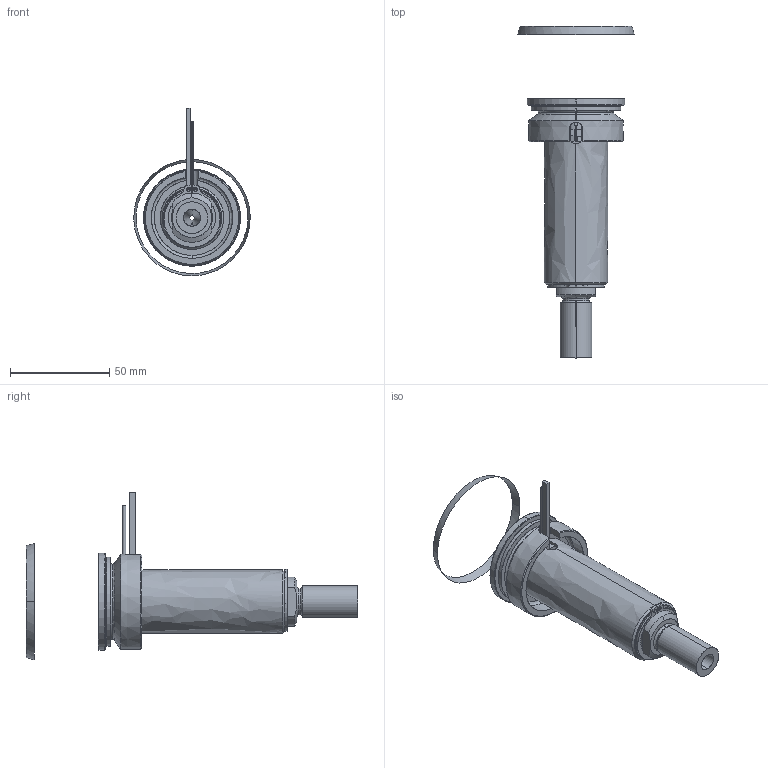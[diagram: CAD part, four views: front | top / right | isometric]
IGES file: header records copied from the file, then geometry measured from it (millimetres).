
Start section: SolidWorks IGES file using analytic representation for surfaces
Global section: file name: C:\Documents and Settings\ws-20\Desktop\TEMPORANEA\UGBE5002-S-A-P-5 [Ød-2.5 P-25 ØC-12].IGS; native system: SolidWorks 2012; preprocessor: SolidWorks 2012; author: ws-20; date: 120306.145327; units: millimetre
Bounding box: 58.79 x 167.44 x 84.69 mm (x, y, z)
Surface area: 43130.3 mm2 (no closed solid volume)
Topology: 0 solids, 0 shells, 110 faces, 2118 edges, 2118 vertices
Faces by surface type: revolution 67, bspline 43
